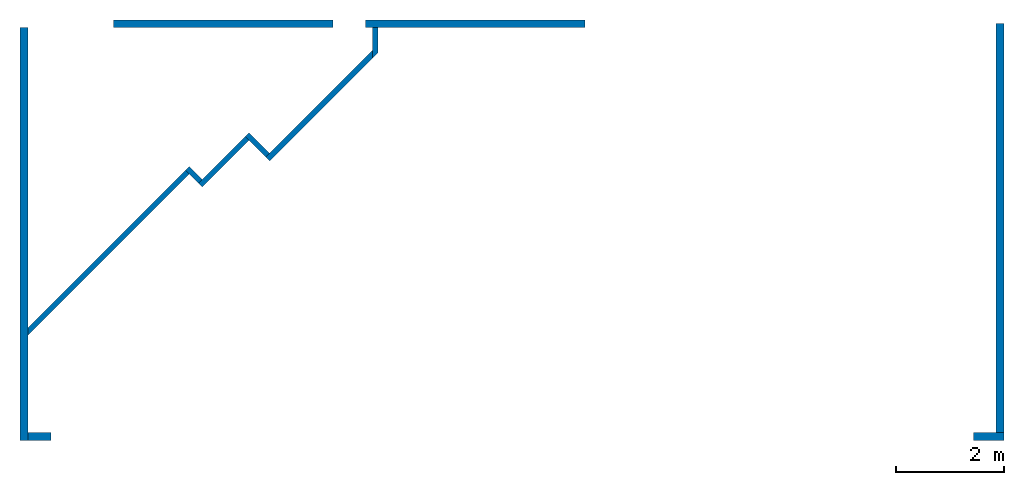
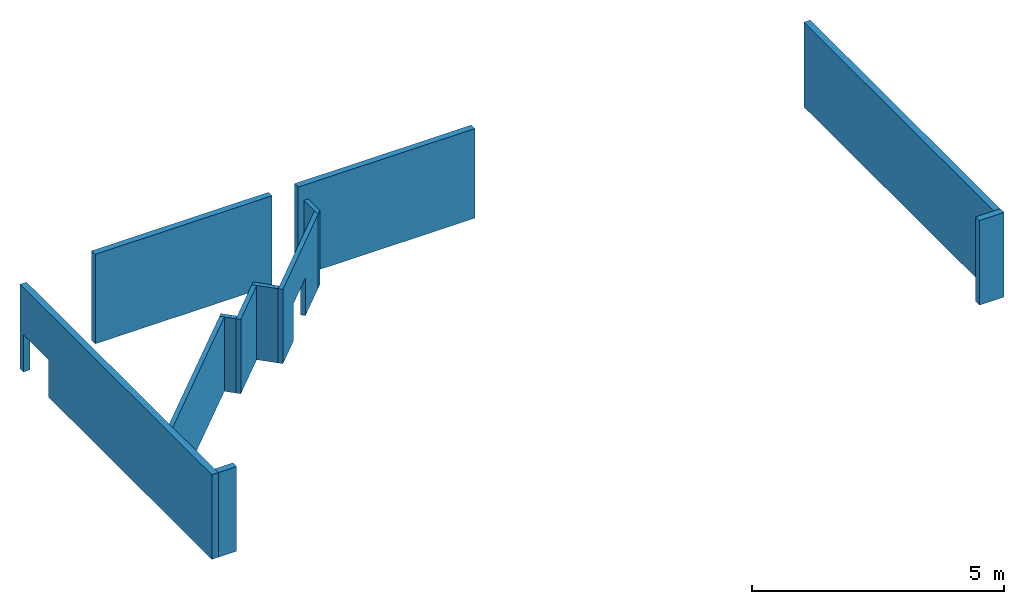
# One storey: 12 walls, 2 openings.
"""IFC2X3 building model written with IfcOpenShell, lengths in millimetres."""

from ifc_helpers import new_model, entity, si_unit, converted_unit, derived_unit, direction, frame, frame_2d, origin, origin_with_axes, place, context, subcontext, project, spatial, polyline, rectangle, outline, extrude, clip, halfspace, material, layer, layer_set, layer_usage, type_object, element, save


model = new_model("IFC2X3")

# Units and contexts
model_context = context("Model", 3, precision=0.01, world=frame((0.0, 4.29681676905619e-09, 0.0)), true_north=direction((4.01073788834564e-13, 1.0)))
plan_context = context("Plan", 3, precision=0.01, world=frame((0.0, 4.29681676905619e-09, 0.0)), true_north=direction((4.01073788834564e-13, 1.0)))
body_context = subcontext(model_context, "Body", "Model", "MODEL_VIEW")
ifc_project = project(units=[converted_unit("PLANEANGLEUNIT", "DEGREE", entity("IfcPositiveLengthMeasure", 0.0174532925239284), si_unit("PLANEANGLEUNIT", "RADIAN"), dimensions=[0, 0, 0, 0, 0, 0, 0]), si_unit("AREAUNIT", "SQUARE_METRE"), si_unit("LENGTHUNIT", "METRE", prefix="MILLI"), si_unit("MASSUNIT", "GRAM", prefix="KILO"), si_unit("POWERUNIT", "WATT"), si_unit("PRESSUREUNIT", "PASCAL", prefix="KILO"), si_unit("FORCEUNIT", "NEWTON", prefix="KILO"), si_unit("ELECTRICVOLTAGEUNIT", "VOLT"), si_unit("ELECTRICCURRENTUNIT", "AMPERE"), si_unit("THERMODYNAMICTEMPERATUREUNIT", "DEGREE_CELSIUS"), si_unit("TIMEUNIT", "SECOND"), si_unit("VOLUMEUNIT", "CUBIC_METRE"), derived_unit("LINEARVELOCITYUNIT", [(si_unit("LENGTHUNIT", "METRE"), 1), (si_unit("TIMEUNIT", "SECOND"), -1)]), derived_unit("VOLUMETRICFLOWRATEUNIT", [(si_unit("VOLUMEUNIT", "CUBIC_METRE"), 1), (si_unit("TIMEUNIT", "SECOND"), -1)]), derived_unit("THERMALTRANSMITTANCEUNIT", [(si_unit("POWERUNIT", "WATT"), 1), (si_unit("THERMODYNAMICTEMPERATUREUNIT", "KELVIN"), -1), (si_unit("AREAUNIT", "SQUARE_METRE"), -1)]), derived_unit("SOUNDPRESSUREUNIT", [(si_unit("PRESSUREUNIT", "PASCAL"), 1)])], contexts=[model_context, plan_context])

# Site, building, storey
site_placement = place(None, origin_with_axes())
site = spatial("IfcSite", under=ifc_project, at=site_placement, Name="ENGM", CompositionType="ELEMENT")
building_placement = place(site_placement, origin_with_axes())
building = spatial("IfcBuilding", under=site, at=building_placement, Name="TS", CompositionType="ELEMENT")
storey_placement = place(building_placement, frame((0.0, 0.0, 205200.0), z_axis=(0.0, 0.0, 1.0), x_axis=(1.0, 0.0, 0.0)))
storey = spatial("IfcBuildingStorey", under=building, at=storey_placement, Name="Nivå D + 1,2 m", CompositionType="ELEMENT", Elevation=205200.0)

# Walls
ifc_material_1 = material(Name="Betong - Multiblokk")
ifc_layer_1 = layer(ifc_material_1, 142.0)
ifc_layer_set_1 = layer_set([ifc_layer_1], Name="Basic Wall:A241 - MK-142 (Multiblokk 142)")
ifc_layer_usage_1 = layer_usage(ifc_layer_set_1, "AXIS2", "NEGATIVE", 71.0)
wall_type_1 = type_object("IfcWallType", Name="Basic Wall:A241 - MK-142 (Multiblokk 142)", PredefinedType="STANDARD", material=ifc_layer_set_1)
wall_1_placement = place(storey_placement, frame((596650.000000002, 405420.994982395, 0.0), z_axis=(0.0, 0.0, 1.0), x_axis=(1.0, 0.0, 0.0)))
element("IfcWallStandardCase", 1, at=wall_1_placement, inside=storey, type_object=wall_type_1, material=ifc_layer_usage_1, Name="Basic Wall:A241 - MK-142 (Multiblokk 142)", ObjectType="Basic Wall:A241 - MK-142 (Multiblokk 142)", context=body_context, shape_type="Clipping", body=[
    clip(extrude(rectangle(XDim=4049.99999999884, YDim=142.000000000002, at=frame_2d((2024.99999999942, -2.80238054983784e-11), x_axis=(-1.0, 0.0))), origin(), (0.0, 0.0, 1.0), 2170.00000000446), halfspace(frame((0.0, 0.0, -1200.0)), True)),
])
ifc_layer_usage_2 = layer_usage(ifc_layer_set_1, "AXIS2", "NEGATIVE", 71.0)
wall_2_placement = place(storey_placement, frame((601300.000000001, 405420.996508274, 0.0), z_axis=(0.0, 0.0, 1.0), x_axis=(1.0, 0.0, 0.0)))
element("IfcWallStandardCase", 2, at=wall_2_placement, inside=storey, type_object=wall_type_1, material=ifc_layer_usage_2, Name="Basic Wall:A241 - MK-142 (Multiblokk 142)", ObjectType="Basic Wall:A241 - MK-142 (Multiblokk 142)", context=body_context, shape_type="Clipping", body=[
    clip(extrude(rectangle(XDim=4049.99999999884, YDim=142.000000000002, at=frame_2d((2024.99999999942, -2.80238054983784e-11), x_axis=(-1.0, 0.0))), origin(), (0.0, 0.0, 1.0), 2170.00000000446), halfspace(frame((0.0, 0.0, -1200.0)), True)),
])
ifc_material_2 = material(Name="Plate - Gips")
ifc_layer_2 = layer(ifc_material_2, 12.5)
ifc_material_3 = material(Name="_NSW Stålstender, uisolert")
ifc_layer_3 = layer(ifc_material_3, 75.0)
ifc_layer_4 = layer(ifc_material_2, 12.5)
ifc_layer_set_2 = layer_set([ifc_layer_2, ifc_layer_3, ifc_layer_4], Name="Basic Wall:A241 - SVS-75 (75/75 g-g)")
ifc_layer_usage_3 = layer_usage(ifc_layer_set_2, "AXIS2", "NEGATIVE", 50.0)
wall_type_2 = type_object("IfcWallType", Name="Basic Wall:A241 - SVS-75 (75/75 g-g)", PredefinedType="STANDARD", material=ifc_layer_set_2)
wall_3_placement = place(storey_placement, frame((601481.593820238, 405349.996508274, 0.0), z_axis=(0.0, 0.0, 1.0), x_axis=(0.0, -1.0, 0.0)))
element("IfcWallStandardCase", 3, at=wall_3_placement, inside=storey, type_object=wall_type_2, material=ifc_layer_usage_3, Name="Basic Wall:A241 - SVS-75 (75/75 g-g)", ObjectType="Basic Wall:A241 - SVS-75 (75/75 g-g)", context=body_context, shape_type="Clipping", body=[
    clip(extrude(outline(polyline([(556.338597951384, -50.0), (456.338597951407, 50.0), (0.0, 50.0), (0.0, -50.0), (414.917241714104, -50.0), (556.338597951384, -50.0)])), origin(), (0.0, 0.0, 1.0), 1800.00000000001), halfspace(frame((0.0, 0.0, -1200.0)), True)),
])

# Wall, opening
ifc_layer_usage_4 = layer_usage(ifc_layer_set_2, "AXIS2", "NEGATIVE", 50.0)
wall_4_placement = place(storey_placement, frame((601466.949159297, 404899.723927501, 0.0), z_axis=(0.0, 0.0, 1.0), x_axis=(-0.70710678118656, -0.707106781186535, 0.0)))
wall_4 = element("IfcWallStandardCase", 4, at=wall_4_placement, inside=storey, type_object=wall_type_2, material=ifc_layer_usage_4, Name="Basic Wall:A241 - SVS-75 (75/75 g-g)", ObjectType="Basic Wall:A241 - SVS-75 (75/75 g-g)", context=body_context, shape_type="Clipping", body=[
    clip(extrude(outline(polyline([(0.0, -50.0), (2689.01709483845, -50.0), (2789.01709483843, -50.0), (2789.01709483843, 50.0), (100.0, 50.0), (0.0, -50.0)])), origin(), (0.0, 0.0, 1.0), 1800.00000000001), halfspace(frame((0.0, 0.0, -1200.0)), True)),
])
opening_1_placement = place(wall_4_placement, frame((711608.698899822, -138994.017920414, -1200.0), z_axis=(0.0, 0.0, 1.0), x_axis=(-0.70710678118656, 0.707106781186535, 0.0)))
element("IfcOpeningElement", 5, at=opening_1_placement, cuts=wall_4, Name="Basic Wall:A241 - SVS-75 (75/75 g-g)", ObjectType="Opening", context=body_context, shape_type="SweptSolid", body=[
    extrude(rectangle(XDim=2109.99999999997, YDim=909.999999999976, at=frame_2d((0.0, -4.89990270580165e-11), x_axis=(1.0, 0.0))), frame((599347.030941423, 404864.356500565, 1055.0), z_axis=(0.707106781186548, -0.707106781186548, 0.0), x_axis=(0.0, 0.0, 1.0)), (0.0, 0.0, 1.0), 3047.99999999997),
])

# Walls
ifc_layer_usage_5 = layer_usage(ifc_layer_set_2, "AXIS2", "NEGATIVE", 50.0)
wall_5_placement = place(storey_placement, frame((599494.816258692, 402998.301705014, 0.0), z_axis=(0.0, 0.0, 1.0), x_axis=(-0.707106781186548, 0.707106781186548, 0.0)))
element("IfcWallStandardCase", 6, at=wall_5_placement, inside=storey, type_object=wall_type_2, material=ifc_layer_usage_5, Name="Basic Wall:A241 - SVS-75 (75/75 g-g)", ObjectType="Basic Wall:A241 - SVS-75 (75/75 g-g)", context=body_context, shape_type="Clipping", body=[
    clip(extrude(rectangle(XDim=538.546278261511, YDim=99.9999999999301, at=frame_2d((269.273139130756, 7.351275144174e-11), x_axis=(-1.0, 0.0))), origin(), (0.0, 0.0, 1.0), 1800.00000000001), halfspace(frame((0.0, 0.0, -1200.0)), True)),
])
ifc_layer_usage_6 = layer_usage(ifc_layer_set_2, "AXIS2", "NEGATIVE", 50.0)
wall_6_placement = place(storey_placement, frame((599114.00653335, 403308.400752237, 0.0), z_axis=(0.0, 0.0, 1.0), x_axis=(-0.707106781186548, -0.707106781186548, 0.0)))
element("IfcWallStandardCase", 7, at=wall_6_placement, inside=storey, type_object=wall_type_2, material=ifc_layer_usage_6, Name="Basic Wall:A241 - SVS-75 (75/75 g-g)", ObjectType="Basic Wall:A241 - SVS-75 (75/75 g-g)", context=body_context, shape_type="Clipping", body=[
    clip(extrude(rectangle(XDim=1221.01527066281, YDim=99.999999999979, at=frame_2d((610.507635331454, 4.90132379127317e-11), x_axis=(-1.0, 0.0))), origin(), (0.0, 0.0, 1.0), 1800.00000000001), halfspace(frame((0.0, 0.0, -1200.0)), True)),
])
ifc_layer_usage_7 = layer_usage(ifc_layer_set_2, "AXIS2", "NEGATIVE", 50.0)
wall_7_placement = place(storey_placement, frame((598250.618355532, 402515.723252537, 0.0), z_axis=(0.0, 0.0, 1.0), x_axis=(-0.707106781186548, 0.707106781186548, 0.0)))
element("IfcWallStandardCase", 8, at=wall_7_placement, inside=storey, type_object=wall_type_2, material=ifc_layer_usage_7, Name="Basic Wall:A241 - SVS-75 (75/75 g-g)", ObjectType="Basic Wall:A241 - SVS-75 (75/75 g-g)", context=body_context, shape_type="Clipping", body=[
    clip(extrude(rectangle(XDim=337.004914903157, YDim=99.9999999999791, at=frame_2d((168.502457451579, 4.90096851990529e-11), x_axis=(-1.0, 0.0))), origin(), (0.0, 0.0, 1.0), 1800.00000000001), halfspace(frame((0.0, 0.0, -1200.0)), True)),
])
ifc_layer_usage_8 = layer_usage(ifc_layer_set_2, "AXIS2", "NEGATIVE", 50.0)
wall_8_placement = place(storey_placement, frame((598012.319894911, 402683.31103504, 0.0), z_axis=(0.0, 0.0, 1.0), x_axis=(-0.707106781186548, -0.707106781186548, 0.0)))
element("IfcWallStandardCase", 9, at=wall_8_placement, inside=storey, type_object=wall_type_2, material=ifc_layer_usage_8, Name="Basic Wall:A241 - SVS-75 (75/75 g-g)", ObjectType="Basic Wall:A241 - SVS-75 (75/75 g-g)", context=body_context, shape_type="Clipping", body=[
    clip(extrude(outline(polyline([(4104.70473918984, -50.0), (4204.70473918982, 50.0), (0.0, 50.0), (0.0, -50.0), (4104.70473918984, -50.0)])), origin(), (0.0, 0.0, 1.0), 1800.00000000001), halfspace(frame((0.0, 0.0, -1200.0)), True)),
])

# Wall, opening
ifc_layer_5 = layer(ifc_material_2, 12.5)
ifc_material_4 = material(Name="_NSW X-finer")
ifc_layer_6 = layer(ifc_material_4, 12.0)
ifc_layer_7 = layer(ifc_material_3, 100.0)
ifc_layer_8 = layer(ifc_material_4, 12.0)
ifc_layer_9 = layer(ifc_material_2, 12.5)
ifc_layer_set_3 = layer_set([ifc_layer_5, ifc_layer_6, ifc_layer_7, ifc_layer_8, ifc_layer_9], Name="Basic Wall:A241 - SVS-102 (100/100 gx-xg)")
ifc_layer_usage_9 = layer_usage(ifc_layer_set_3, "AXIS2", "NEGATIVE", 74.5)
wall_type_3 = type_object("IfcWallType", Name="Basic Wall:A241 - SVS-102 (100/100 gx-xg)", PredefinedType="STANDARD", material=ifc_layer_set_3)
wall_9_placement = place(storey_placement, frame((595000.000000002, 405350.0, 0.0), z_axis=(0.0, 0.0, 1.0), x_axis=(0.0, -1.0, 0.0)))
wall_9 = element("IfcWallStandardCase", 10, at=wall_9_placement, inside=storey, type_object=wall_type_3, material=ifc_layer_usage_9, Name="Basic Wall:A241 - SVS-102 (100/100 gx-xg)", ObjectType="Basic Wall:A241 - SVS-102 (100/100 gx-xg)", context=body_context, shape_type="Clipping", body=[
    clip(extrude(rectangle(XDim=7613.49999987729, YDim=148.999999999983, at=frame_2d((3806.74999993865, 3.46531692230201e-11), x_axis=(1.0, 0.0))), origin(), (0.0, 0.0, 1.0), 2049.99999999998), halfspace(frame((0.0, 0.0, -1200.0)), True)),
])
opening_2_placement = place(wall_9_placement, frame((405350.0, -595000.000000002, -1200.0), z_axis=(0.0, 0.0, 1.0), x_axis=(0.0, 1.0, 0.0)))
element("IfcOpeningElement", 11, at=opening_2_placement, cuts=wall_9, Name="Basic Wall:A241 - SVS-102 (100/100 gx-xg)", ObjectType="Opening", context=body_context, shape_type="SweptSolid", body=[
    extrude(rectangle(XDim=2109.99999999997, YDim=1010.00000000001, at=frame_2d((0.0, -3.46744855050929e-11), x_axis=(1.0, 0.0))), frame((593401.500000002, 404715.000000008, 1055.0), z_axis=(1.0, 0.0, 0.0), x_axis=(0.0, 0.0, 1.0)), (0.0, 0.0, 1.0), 3048.0),
])

# Walls
ifc_layer_usage_10 = layer_usage(ifc_layer_set_3, "AXIS2", "NEGATIVE", 74.5)
wall_10_placement = place(storey_placement, frame((595074.500000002, 397811.000000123, 0.0), z_axis=(0.0, 0.0, 1.0), x_axis=(1.0, 0.0, 0.0)))
element("IfcWallStandardCase", 12, at=wall_10_placement, inside=storey, type_object=wall_type_3, material=ifc_layer_usage_10, Name="Basic Wall:A241 - SVS-102 (100/100 gx-xg)", ObjectType="Basic Wall:A241 - SVS-102 (100/100 gx-xg)", context=body_context, shape_type="Clipping", body=[
    clip(extrude(rectangle(XDim=420.861038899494, YDim=148.999999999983, at=frame_2d((210.430519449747, 3.02620151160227e-11), x_axis=(-1.0, 0.0))), origin(), (0.0, 0.0, 1.0), 2049.99999999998), halfspace(frame((0.0, 0.0, -1200.0)), True)),
])
ifc_layer_usage_11 = layer_usage(ifc_layer_set_3, "AXIS2", "NEGATIVE", 74.5)
wall_11_placement = place(storey_placement, frame((612511.0478585, 397811.000000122, 0.0), z_axis=(0.0, 0.0, 1.0), x_axis=(1.0, 0.0, 0.0)))
element("IfcWallStandardCase", 13, at=wall_11_placement, inside=storey, type_object=wall_type_3, material=ifc_layer_usage_11, Name="Basic Wall:A241 - SVS-102 (100/100 gx-xg)", ObjectType="Basic Wall:A241 - SVS-102 (100/100 gx-xg)", context=body_context, shape_type="Clipping", body=[
    clip(extrude(rectangle(XDim=563.452141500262, YDim=148.999999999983, at=frame_2d((281.726070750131, 2.87698753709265e-11), x_axis=(-1.0, 0.0))), origin(), (0.0, 0.0, 1.0), 2049.99999999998), halfspace(frame((0.0, 0.0, -1200.0)), True)),
])
ifc_layer_usage_12 = layer_usage(ifc_layer_set_3, "AXIS2", "NEGATIVE", 74.5)
wall_12_placement = place(storey_placement, frame((613000.0, 405425.000000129, 0.0), z_axis=(0.0, 0.0, 1.0), x_axis=(0.0, -1.0, 0.0)))
element("IfcWallStandardCase", 14, at=wall_12_placement, inside=storey, type_object=wall_type_3, material=ifc_layer_usage_12, Name="Basic Wall:A241 - SVS-102 (100/100 gx-xg)", ObjectType="Basic Wall:A241 - SVS-102 (100/100 gx-xg)", context=body_context, shape_type="Clipping", body=[
    clip(extrude(rectangle(XDim=7539.50000000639, YDim=148.999999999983, at=frame_2d((3769.75000000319, 5.32764943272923e-11), x_axis=(-1.0, 0.0))), origin(), (0.0, 0.0, 1.0), 2049.99999999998), halfspace(frame((0.0, 0.0, -1200.0)), True)),
])

save(model, "model.ifc")
